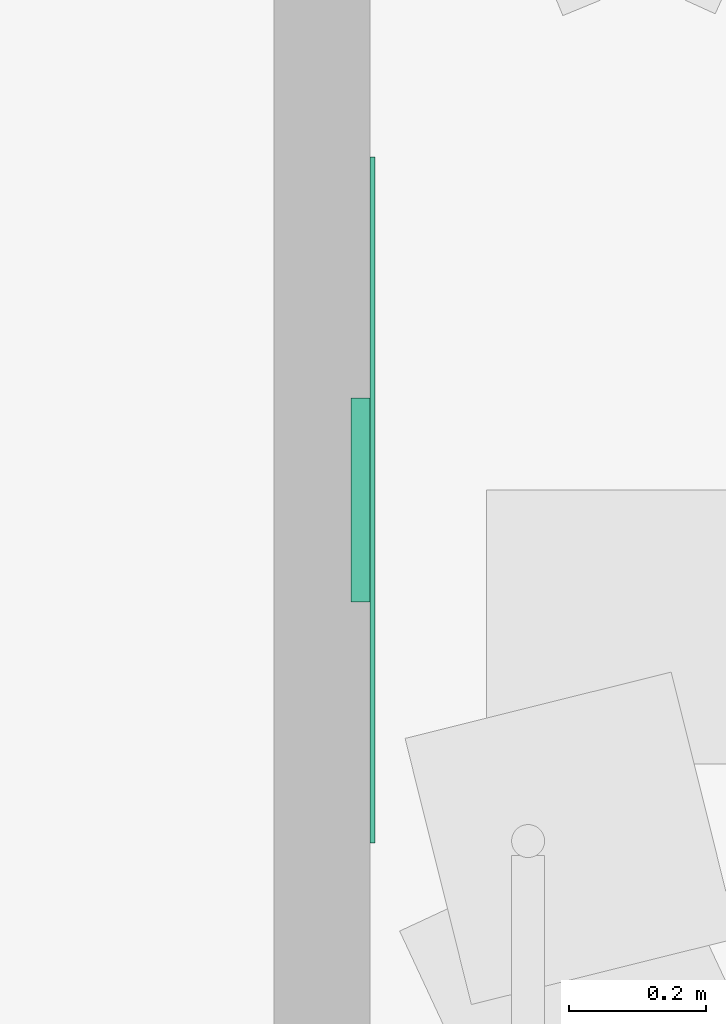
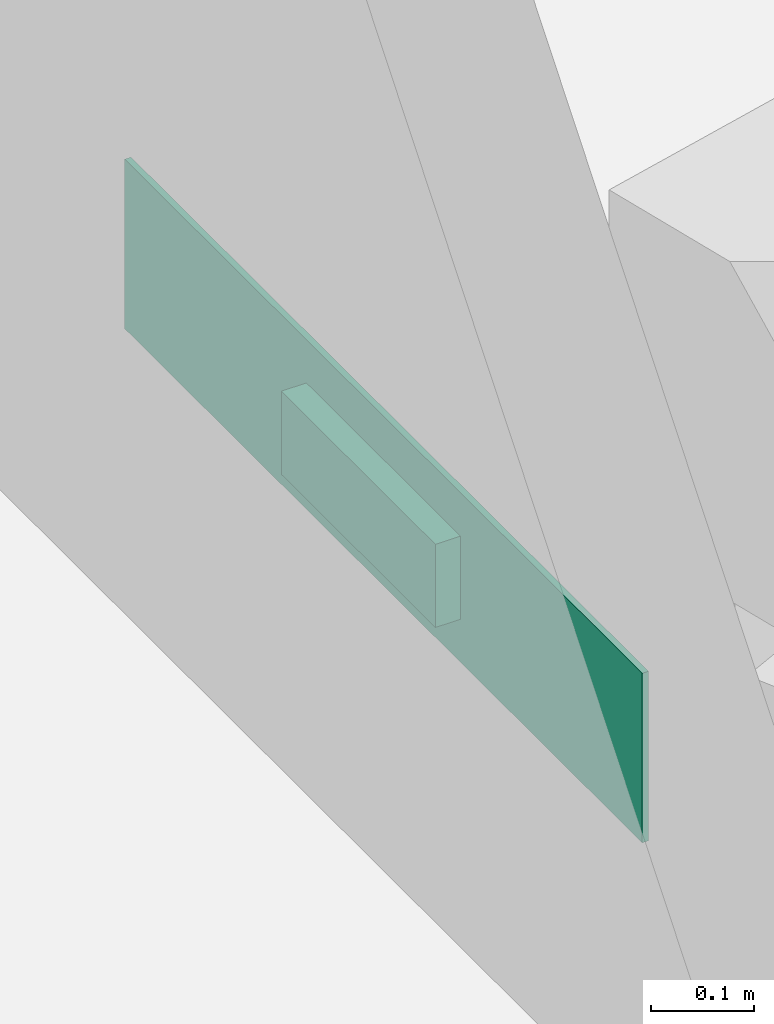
# One storey, part 33 of 71: 1 air terminal.
"""IFC4 building model written with IfcOpenShell, lengths in centimetres."""

from ifc_helpers import new_model, entity, si_unit, converted_unit, derived_unit, direction, frame, origin, place, context, subcontext, project, spatial, arc, indexed_curve, outline, extrude, source, transform, mapped, material, constituent, constituent_set, type_object, type_shapes, element, save


model = new_model("IFC4")

# Units and contexts
model_context = context("Model", 3, precision=0.001, world=origin(), true_north=direction((6.123233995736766e-17, 1.0)))
body_context = subcontext(model_context, "Body", "Model", "MODEL_VIEW")
ifc_project = project(units=[si_unit("LENGTHUNIT", "METRE", prefix="CENTI"), si_unit("AREAUNIT", "SQUARE_METRE"), si_unit("VOLUMEUNIT", "CUBIC_METRE"), derived_unit("THERMALTRANSMITTANCEUNIT", [(si_unit("MASSUNIT", "GRAM", prefix="KILO"), 1), (si_unit("THERMODYNAMICTEMPERATUREUNIT", "KELVIN"), -1), (si_unit("TIMEUNIT", "SECOND"), -3)]), converted_unit("PLANEANGLEUNIT", "DEGREE", entity("IfcPlaneAngleMeasure", 0.017453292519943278), si_unit("PLANEANGLEUNIT", "RADIAN"), dimensions=[0, 0, 0, 0, 0, 0, 0]), derived_unit("MASSDENSITYUNIT", [(si_unit("MASSUNIT", "GRAM", prefix="KILO"), 1), (si_unit("LENGTHUNIT", "METRE"), -3)]), derived_unit("VAPORPERMEABILITYUNIT", [(si_unit("LENGTHUNIT", "METRE"), -1), (si_unit("TIMEUNIT", "SECOND"), 1)]), derived_unit("USERDEFINED", [(si_unit("MASSUNIT", "GRAM", prefix="KILO"), 1), (si_unit("TIMEUNIT", "SECOND"), -3), (si_unit("LENGTHUNIT", "METRE"), 3), (si_unit("ELECTRICCURRENTUNIT", "AMPERE"), -2)]), derived_unit("SPECIFICHEATCAPACITYUNIT", [(si_unit("THERMODYNAMICTEMPERATUREUNIT", "KELVIN"), -1), (si_unit("LENGTHUNIT", "METRE"), 2), (si_unit("TIMEUNIT", "SECOND"), -2)]), derived_unit("THERMALCONDUCTANCEUNIT", [(si_unit("MASSUNIT", "GRAM", prefix="KILO"), 1), (si_unit("THERMODYNAMICTEMPERATUREUNIT", "KELVIN"), -1), (si_unit("TIMEUNIT", "SECOND"), -3), (si_unit("LENGTHUNIT", "METRE"), 1)]), si_unit("PRESSUREUNIT", "PASCAL"), derived_unit("MODULUSOFELASTICITYUNIT", [(si_unit("MASSUNIT", "GRAM", prefix="KILO"), 1), (si_unit("LENGTHUNIT", "METRE"), -1), (si_unit("TIMEUNIT", "SECOND"), -2)]), derived_unit("THERMALEXPANSIONCOEFFICIENTUNIT", [(si_unit("THERMODYNAMICTEMPERATUREUNIT", "KELVIN"), -1)])], contexts=[model_context])

# Site, building, storey, space
site_placement = place(None, origin())
site = spatial("IfcSite", under=ifc_project, at=site_placement, Name="Default", CompositionType="ELEMENT")
building_placement = place(site_placement, origin())
building = spatial("IfcBuilding", under=site, at=building_placement, Name="IDS Escape Game Building", CompositionType="ELEMENT")
storey_placement = place(building_placement, frame((0.0, 0.0, 1200.0)))
storey = spatial("IfcBuildingStorey", under=building, at=storey_placement, Name="03_Third Floor", CompositionType="ELEMENT", Elevation=1200.0)
space_placement = place(storey_placement, origin())
space = spatial("IfcSpace", under=storey, at=space_placement, Name="138", CompositionType="ELEMENT", PredefinedType="NOTDEFINED")

# Air terminal
ifc_material_1 = material(Name="TB_LVC_referentievlak_00_gen_BERSnl", Category="BE Default")
ifc_constituent_1 = constituent(ifc_material_1, Name="TB_LVC_referentievlak_00_gen_BERSnl", Category="BE Default", fraction=0.00014157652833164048)
ifc_material_2 = material(Name="ARC_FME.h2_staal_00_gen_BERSnl", Category="h - metaal")
ifc_constituent_2 = constituent(ifc_material_2, Name="ARC_FME.h2_staal_00_gen_BERSnl", Category="h - metaal", fraction=0.9998584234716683)
ifc_constituent_set_1 = constituent_set(constituents=[ifc_constituent_1, ifc_constituent_2])
ifc_constituent_3 = constituent(ifc_material_1, Name="BE Referentievlak", Category="BE Default", fraction=0.00014157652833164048)
ifc_constituent_4 = constituent(ifc_material_2, Name="Terminals", Category="h - metaal", fraction=0.9998584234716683)
ifc_constituent_set_2 = constituent_set(constituents=[ifc_constituent_3, ifc_constituent_4])
air_terminal_type = type_object("IfcAirTerminalType", Name="TB_57_AIR_FB_aanzuigrooster - 1 rechthoekige aansluiting - calculated flow_gen_BERSnl:Air Terminal - Exhaust", PredefinedType="GRILLE", material=ifc_constituent_set_2)
shared_shape = source(origin(), body_context, "Body", "SweptSolid", [
    extrude(outline(indexed_curve([(-0.5, -2.0290176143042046e-15), (6.8507733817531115e-16, -0.5000000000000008), (0.5, 2.0290176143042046e-15), (-5.361679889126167e-16, 0.49999999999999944)], segments=[arc(1, 2, 3), arc(3, 4, 1)], self_intersect=False)), frame((0.0, 0.0, 0.0), z_axis=(1.7453292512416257e-05, 0.0, 1.0), x_axis=(0.0, 1.0, 0.0)), (0.0, 0.0, 1.0), 0.09999999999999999),
    extrude(outline(indexed_curve([(-14.900000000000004, -4.9), (14.900000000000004, -4.9), (14.900000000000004, 4.9), (-14.900000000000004, 4.9), (-14.900000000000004, -4.9)], self_intersect=False)), frame((-4.886921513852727e-05, 0.0, -2.7999999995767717)), (0.0, 0.0, 1.0), 2.7999999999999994),
    extrude(outline(indexed_curve([(-50.0, -10.0), (50.0, -10.0), (50.0, 10.0), (-50.0, 10.0), (-50.0, -10.0)], self_intersect=False)), frame((0.0, 0.0, 0.0), z_axis=(0.0, 0.0, 1.0), x_axis=(-1.0, 0.0, 0.0)), (0.0, 0.0, 1.0), 0.6999999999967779),
])
type_shapes(air_terminal_type, [shared_shape])
air_terminal_placement = place(space_placement, frame((2959.0, 2835.0, 24.0), z_axis=(1.0, 0.0, 0.0), x_axis=(0.0, 1.0, 0.0)))
element("IfcAirTerminal", 1, at=air_terminal_placement, inside=space, type_object=air_terminal_type, material=ifc_constituent_set_1, Name="TB_57_AIR_FB_aanzuigrooster - 1 rechthoekige aansluiting - calculated flow_gen_BERSnl:Air Terminal - Exhaust", ObjectType="TB_57_AIR_FB_aanzuigrooster - 1 rechthoekige aansluiting - calculated flow_gen_BERSnl:Air Terminal - Exhaust", PredefinedType="GRILLE", context=body_context, shape_type="MappedRepresentation", body=[
    mapped(shared_shape, transform((0.0, 0.0, 0.0), scale=1.0)),
])

save(model, "model.ifc")
